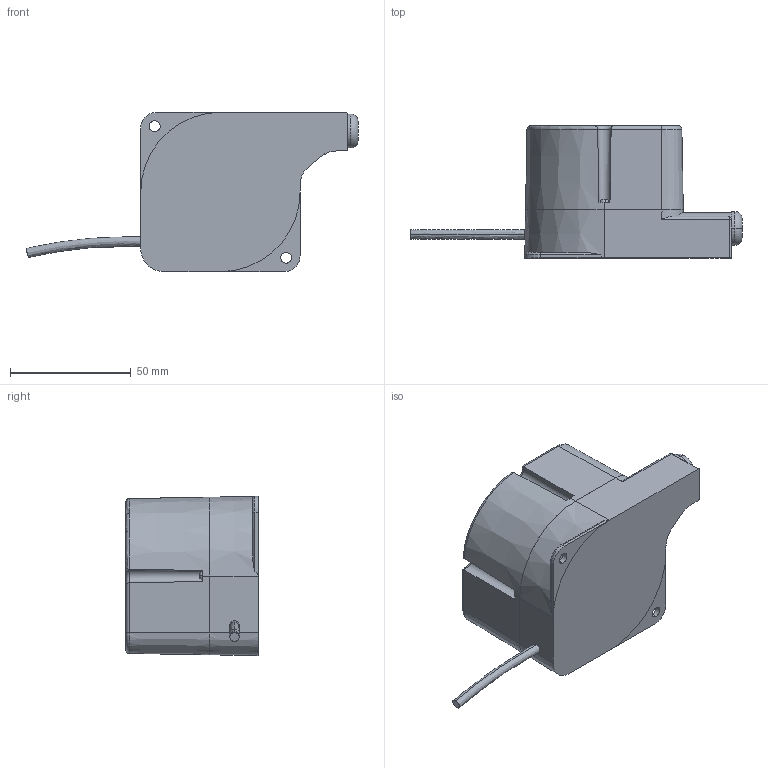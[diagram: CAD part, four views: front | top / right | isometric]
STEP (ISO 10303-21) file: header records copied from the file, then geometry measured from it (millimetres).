
FILE_DESCRIPTION (( 'STEP AP214' ), '1' );
FILE_NAME ('DES-01_DEX-01_Assem0.STEP', '2024-07-18T02:45:15', ( '' ), ( '' ), 'SwSTEP 2.0', 'SolidWorks 2023', '' );
FILE_SCHEMA (( 'AUTOMOTIVE_DESIGN' ));
Length unit declared in the file: millimetre
Products named in the file (4): DES-01_DEX-01_Part2; DES-01_DEX-01_Part1; DES-01_DEX-01_Assem0; SCREW M2 X6 MM
Assembly tree (6 placements, depth 2):
  DES-01_DEX-01_Assem0
    DES-01_DEX-01_Part1
    DES-01_DEX-01_Part2
    SCREW M2 X6 MM  x4
Bounding box: 137.54 x 54.8 x 66 mm (x, y, z)
Volume: 211363 mm3; surface area: 32258.1 mm2
Topology: 9 solids, 9 shells, 222 faces, 592 edges, 396 vertices
Faces by surface type: plane 86, cylinder 51, bspline 38, cone 29, torus 18
Entity records: 6349 total; most frequent: CARTESIAN_POINT 2610, ORIENTED_EDGE 772, DIRECTION 726, EDGE_CURVE 386, AXIS2_PLACEMENT_3D 289, VERTEX_POINT 255, EDGE_LOOP 169, CIRCLE 153
